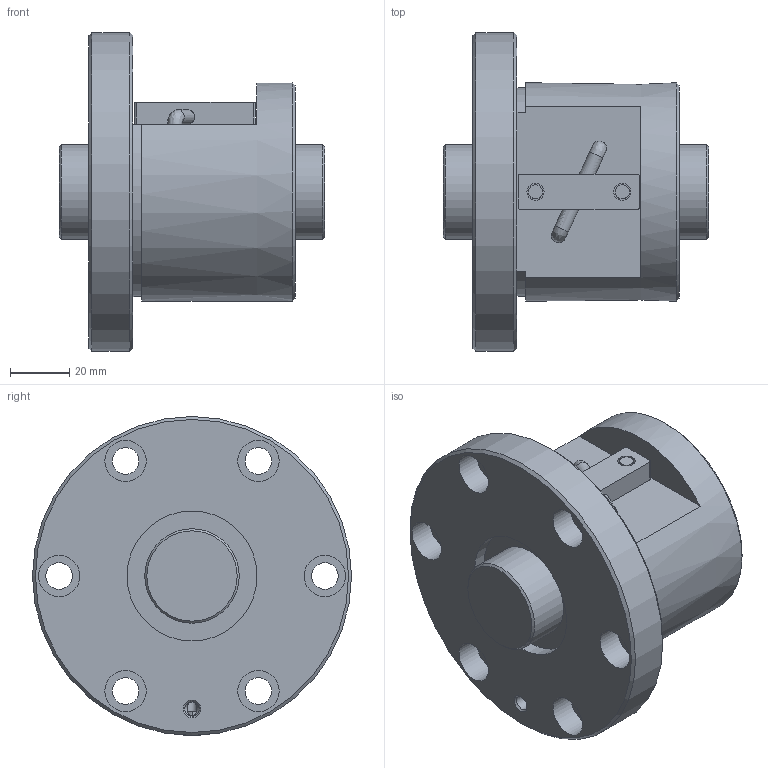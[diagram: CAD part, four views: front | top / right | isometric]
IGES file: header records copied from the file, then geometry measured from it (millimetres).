
Start section: Data from Parasolid IGES Translator 26.0.171, Copyright(c) 2006 Siemens PLM Software. All Rights Reserved.
Global section: file name: BNF3210V-2.5RRG1+90LC0_000_rev.igs; native system: By Siemens PLM Incorporated; preprocessor: XPlus GENERIC/IGES 26.0.171; author: Noname; organization: Noname; date: 20240806.083736; units: millimetre
Bounding box: 90 x 108 x 108 mm (x, y, z)
Surface area: 57601.8 mm2 (no closed solid volume)
Topology: 0 solids, 0 shells, 71 faces, 328 edges, 290 vertices
Faces by surface type: revolution 44, extrusion 27
